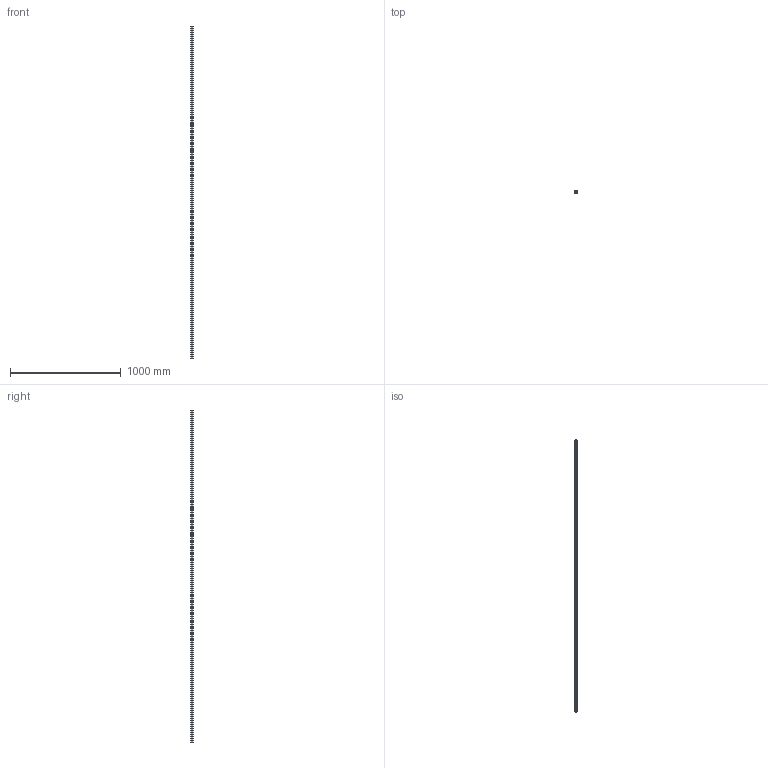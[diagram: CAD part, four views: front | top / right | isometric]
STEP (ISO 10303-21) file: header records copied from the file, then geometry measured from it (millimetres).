
FILE_DESCRIPTION (( 'STEP AP203' ), '1' );
FILE_NAME ('Universalprofil - PU 25 - ArtNr 200001 3000.STEP', '2013-02-07T09:20:32', ( 'test' ), ( 'Microsoft' ), 'SwSTEP 2.0', 'SolidWorks 2012', '' );
FILE_SCHEMA (( 'CONFIG_CONTROL_DESIGN' ));
Length unit declared in the file: millimetre
Products named in the file (1): Universalprofil - PU 25 - ArtNr 200001 3000
Bounding box: 25 x 25 x 3000 mm (x, y, z)
Volume: 767092.3 mm3; surface area: 716796.8 mm2
Topology: 1 solids, 1 shells, 47 faces, 135 edges, 90 vertices
Faces by surface type: plane 34, cylinder 13
Full cylindrical faces by diameter (mm): 4 x4, 5 x1
Entity records: 1607 total; most frequent: CARTESIAN_POINT 268, ORIENTED_EDGE 260, DIRECTION 252, EDGE_CURVE 130, VECTOR 104, LINE 104, VERTEX_POINT 90, AXIS2_PLACEMENT_3D 74
